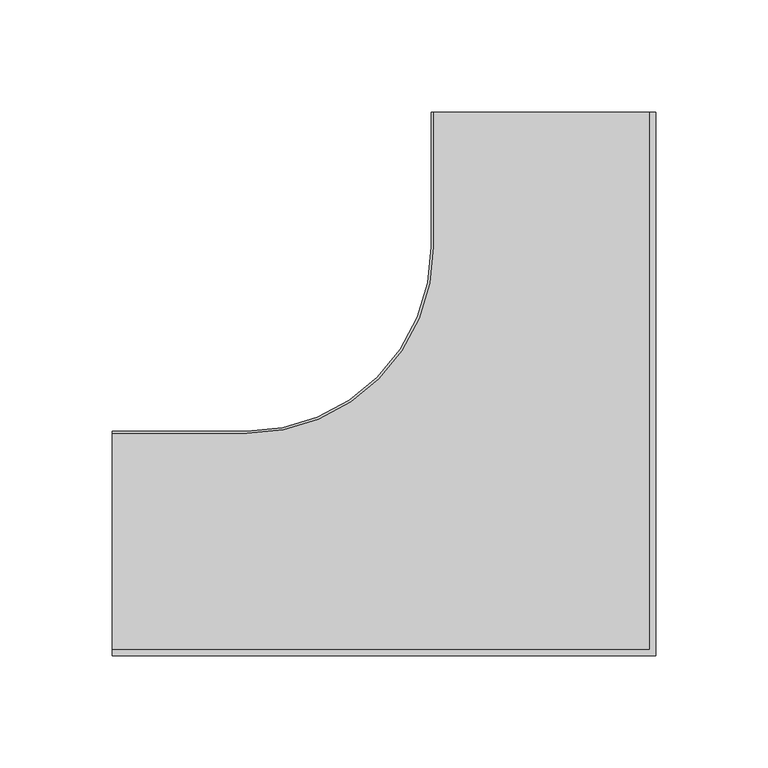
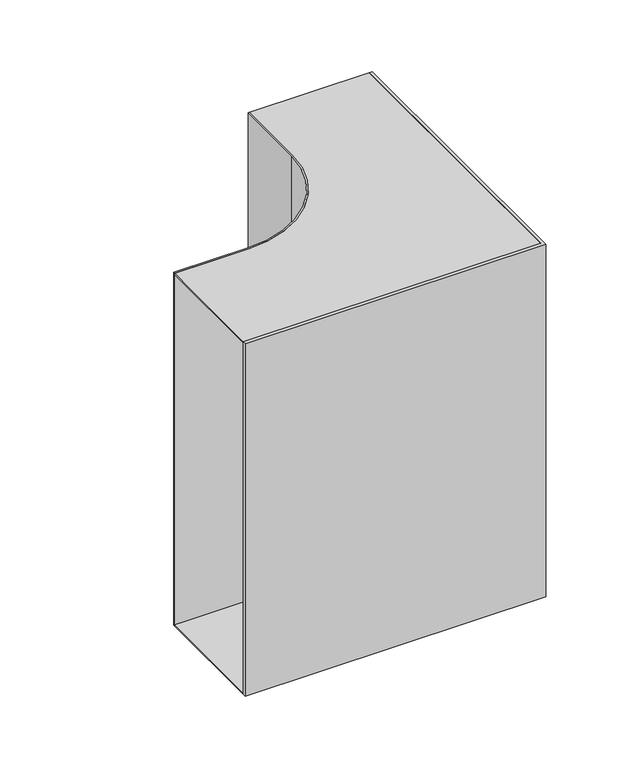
"""IFC4 building model written with IfcOpenShell, lengths in millimetres: cable carrier fitting geometry, CCCT_Vertical_Bend-Basorcanal : Basorcanal CCCT."""

from ifc_helpers import new_model, si_unit, point, frame, frame_2d, origin, place, context, project, spatial, polyline, circle_curve, trimmed, segment, composite_curve, outline, extrude, source, transform, mapped, element, save


def cable_carrier_fitting_2af98f5a(model_context):
    return source(origin(), model_context, "Body", "SweptSolid", [
        extrude(outline(polyline([(47.46, 192.0), (50.0, 192.0), (50.0, -50.0), (-192.0, -50.0), (-192.0, -47.46), (47.46, -47.46), (47.46, 192.0)])), frame((0.0, 0.0, -150.0), z_axis=(0.0, 0.0, 1.0), x_axis=(1.0, 0.0, 0.0)), (0.0, 0.0, 1.0), 300.0),
        extrude(outline(composite_curve([segment(polyline([(-49.0, 192.0), (-49.0, 132.0)]), True, "CONTINUOUS"), segment(trimmed(circle_curve(frame_2d((-132.0, 132.0)), 83.0), [point((-49.0, 132.0))], [point((-132.0, 49.0))], False, "CARTESIAN"), True, "CONTINUOUS"), segment(polyline([(-132.0, 49.0), (-192.0, 49.0), (-192.0, 50.0), (-132.0, 50.0)]), True, "CONTINUOUS"), segment(trimmed(circle_curve(frame_2d((-132.0, 132.0)), 82.0), [point((-132.0, 50.0))], [point((-50.0, 132.0))], True, "CARTESIAN"), True, "CONTINUOUS"), segment(polyline([(-50.0, 132.0), (-50.0, 192.0), (-49.0, 192.0)]), True, "CONTINUOUS")], self_intersect=False)), frame((0.0, 0.0, -150.0), z_axis=(0.0, 0.0, 1.0), x_axis=(1.0, 0.0, 0.0)), (0.0, 0.0, 1.0), 300.0),
        extrude(outline(composite_curve([segment(polyline([(-192.0, -50.0), (-192.0, 50.0), (-132.0, 50.0)]), True, "CONTINUOUS"), segment(trimmed(circle_curve(frame_2d((-132.0, 132.0)), 82.0), [point((-132.0, 50.0))], [point((-50.0, 132.0))], True, "CARTESIAN"), True, "CONTINUOUS"), segment(polyline([(-50.0, 132.0), (-50.0, 192.0), (50.0, 192.0), (50.0, -50.0), (-192.0, -50.0)]), True, "CONTINUOUS")], self_intersect=False)), frame((0.0, 0.0, -150.0), z_axis=(0.0, 0.0, 1.0), x_axis=(1.0, 0.0, 0.0)), (0.0, 0.0, 1.0), 1.0),
        extrude(outline(composite_curve([segment(polyline([(-50.0, 192.0), (50.0, 192.0), (50.0, -50.0), (-192.0, -50.0), (-192.0, 50.0), (-132.0, 50.0)]), True, "CONTINUOUS"), segment(trimmed(circle_curve(frame_2d((-132.0, 132.0)), 82.0), [point((-132.0, 50.0))], [point((-50.0, 132.0))], True, "CARTESIAN"), True, "CONTINUOUS"), segment(polyline([(-50.0, 132.0), (-50.0, 192.0)]), True, "CONTINUOUS")], self_intersect=False)), frame((0.0, 0.0, 149.0), z_axis=(0.0, 0.0, 1.0), x_axis=(1.0, 0.0, 0.0)), (0.0, 0.0, 1.0), 1.0),
    ])


if __name__ == "__main__":
    model = new_model("IFC4")
    model_context = context("Model", 3, world=origin())
    ifc_project = project(units=[si_unit("LENGTHUNIT", "METRE", prefix="MILLI")], contexts=[model_context])
    site = spatial("IfcSite", under=ifc_project)
    building = spatial("IfcBuilding", under=site)
    placement = place(None, origin())
    cable_carrier_fitting_shape = cable_carrier_fitting_2af98f5a(model_context)
    element("IfcCableCarrierFitting", 1, ObjectType="CCCT_Vertical_Bend-Basorcanal : Basorcanal CCCT", at=placement, inside=building, context=model_context, shape_type="MappedRepresentation", body=[
        mapped(cable_carrier_fitting_shape, transform((0.0, 0.0, 0.0), x_axis=(1.0, 0.0, 0.0), y_axis=(0.0, 1.0, 0.0), z_axis=(0.0, 0.0, 1.0))),
    ])
    save(model, "model.ifc")
